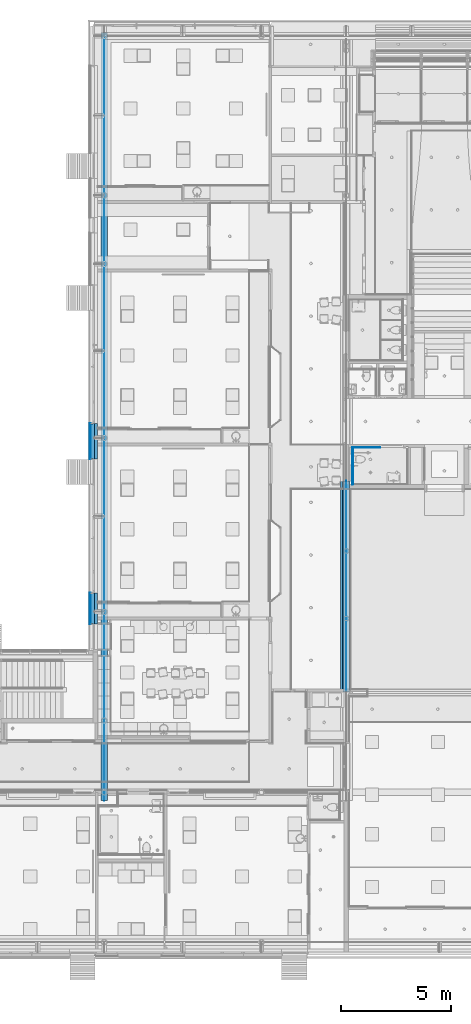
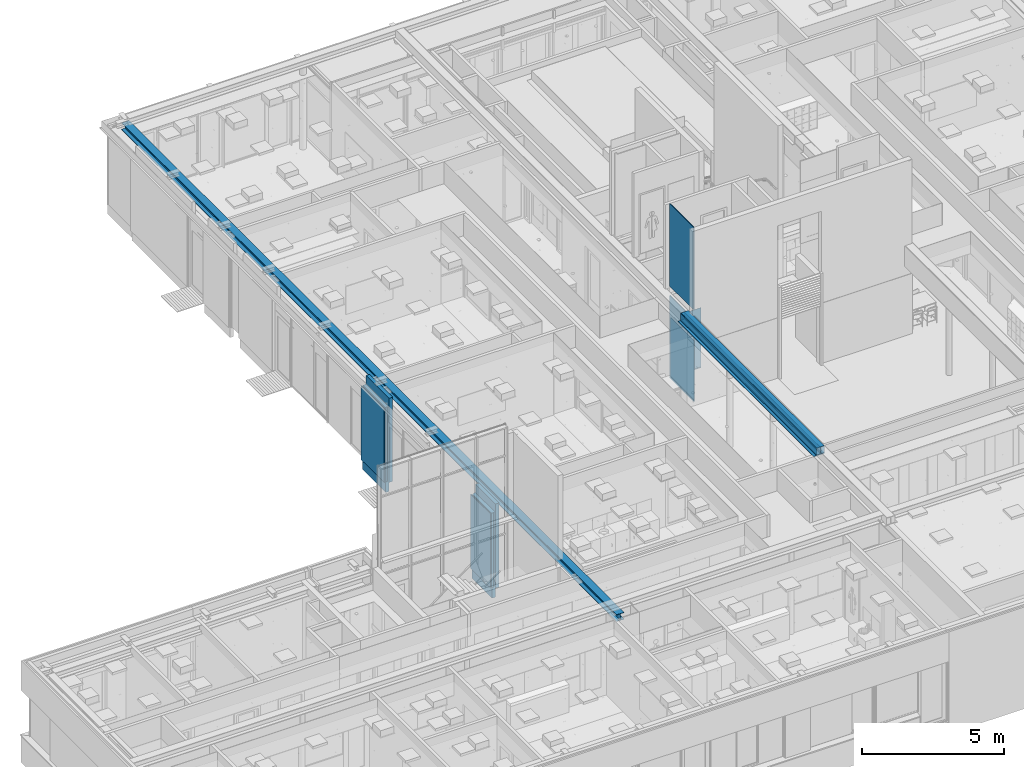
# One storey, part 114 of 347: 20 building element parts, 7 elements without a shape of their own.
"""IFC2X3 building model written with IfcOpenShell, lengths in millimetres."""

from ifc_helpers import new_model, entity, si_unit, converted_unit, derived_unit, money_unit, direction, frame, origin_with_axes, place, context, subcontext, project, spatial, faceted_brep, material, type_object, element, aggregate, save


model = new_model("IFC2X3")

# Units and contexts
model_context = context("Model", 3, precision=0.01, world=origin_with_axes(), true_north=direction((0.0, 1.0)))
plan_context = context("Plan", 3, precision=0.01, world=origin_with_axes(), true_north=direction((0.0, 1.0)))
body_context = subcontext(model_context, "Body", "Model", "MODEL_VIEW")
ifc_project = project(units=[si_unit("LENGTHUNIT", "METRE", prefix="MILLI"), si_unit("AREAUNIT", "SQUARE_METRE"), si_unit("VOLUMEUNIT", "CUBIC_METRE"), converted_unit("PLANEANGLEUNIT", "DEGREE", entity("IfcPlaneAngleMeasure", 0.0174532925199), si_unit("PLANEANGLEUNIT", "RADIAN"), dimensions=[0, 0, 0, 0, 0, 0, 0]), money_unit("EUR"), converted_unit("TIMEUNIT", "Year", entity("IfcTimeMeasure", 31556926.0), si_unit("TIMEUNIT", "SECOND"), dimensions=[0, 0, 1, 0, 0, 0, 0]), si_unit("MASSUNIT", "GRAM", prefix="KILO"), si_unit("THERMODYNAMICTEMPERATUREUNIT", "DEGREE_CELSIUS"), si_unit("LUMINOUSINTENSITYUNIT", "LUMEN"), si_unit("ENERGYUNIT", "JOULE", prefix="MEGA"), derived_unit("THERMALCONDUCTANCEUNIT", [(si_unit("POWERUNIT", "WATT"), 1), (si_unit("LENGTHUNIT", "METRE"), -1), (si_unit("THERMODYNAMICTEMPERATUREUNIT", "KELVIN"), -1)]), derived_unit("SPECIFICHEATCAPACITYUNIT", [(si_unit("ENERGYUNIT", "JOULE"), 1), (si_unit("MASSUNIT", "GRAM", prefix="KILO"), -1), (si_unit("THERMODYNAMICTEMPERATUREUNIT", "KELVIN"), -1)]), derived_unit("MASSDENSITYUNIT", [(si_unit("MASSUNIT", "GRAM", prefix="KILO"), 1), (si_unit("VOLUMEUNIT", "CUBIC_METRE"), -1)])], contexts=[model_context, plan_context])

# Site, building, storey
site_placement = place(None, origin_with_axes())
site = spatial("IfcSite", under=ifc_project, at=site_placement, Name="Site", CompositionType="ELEMENT")
building_placement = place(site_placement, origin_with_axes())
building = spatial("IfcBuilding", under=site, at=building_placement, Name="Naam gebouw", CompositionType="ELEMENT")
storey_placement = place(building_placement, origin_with_axes())
storey = spatial("IfcBuildingStorey", under=building, at=storey_placement, Name="begane grond", CompositionType="ELEMENT", Elevation=0.0)

# Proxy, building element parts
building_element_proxy_type = type_object("IfcBuildingElementProxyType", Name="wandtegels 150x300 2600+ 10 x 2600", PredefinedType="NOTDEFINED")
proxy_1_placement = place(storey_placement, frame((35925.0, 26170.0, 0.0), z_axis=(0.0, 0.0, 1.0), x_axis=(0.0, 1.0, 0.0)))
proxy_1 = element("IfcBuildingElementProxy", 1, at=proxy_1_placement, inside=storey, type_object=building_element_proxy_type, Name="42_51 wandtegels keramisch")
ifc_material_1 = material(Name="48 vloeivloer Bolidt")
building_element_part_1_placement = place(proxy_1_placement, origin_with_axes())
building_element_part_1 = element("IfcBuildingElementPart", 2, at=building_element_part_1_placement, material=ifc_material_1, Name="48 vloeivloer Bolidt", context=body_context, shape_type="Brep", body=[
    faceted_brep([(-8.00001490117, 10.0000089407, 50.0000059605), (-8.00001490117, 8.00001490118, 50.0000059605), (1669.99999702, 8.00001490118, 50.0000059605), (1669.99999702, 10.0000089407, 50.0000059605), (-8.00001490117, 8.00001490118, 0.0), (-8.00001490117, 10.0000089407, 0.0), (1669.99999702, 8.00001490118, 0.0), (1669.99999702, 10.0000089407, 0.0)], [[[0, 1, 2, 3]], [[4, 1, 0, 5]], [[1, 4, 6, 2]], [[3, 2, 6, 7]], [[5, 0, 3, 7]], [[4, 5, 7, 6]]]),
])
ifc_material_2 = material(Name="Tegels - Wand")
building_element_part_2_placement = place(proxy_1_placement, origin_with_axes())
building_element_part_2 = element("IfcBuildingElementPart", 3, at=building_element_part_2_placement, material=ifc_material_2, Name="Tegels - Wand", context=body_context, shape_type="Brep", body=[
    faceted_brep([(0.0, 10.0, 2600.0), (0.0, 0.0, 2600.0), (1669.99999702, 0.0, 2600.0), (1669.99999702, 10.0, 2600.0), (0.0, 0.0, 50.0), (0.0, 10.0, 50.0), (0.0, 8.00001490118, 50.0), (1669.99999702, 0.0, 50.0000059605), (1669.99999702, 10.0, 50.0000059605), (1669.99999702, 8.00001490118, 50.0000059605)], [[[0, 1, 2, 3]], [[4, 1, 0, 5, 6]], [[1, 4, 7, 2]], [[8, 3, 2, 7, 9]], [[5, 0, 3, 8]], [[6, 5, 8, 9]], [[4, 6, 9, 7]]]),
])
aggregate(proxy_1, [building_element_part_1, building_element_part_2])

# Wall, building element parts
wall_type_1 = type_object("IfcWallType", Name="ALG LSW sanitair 100", PredefinedType="NOTDEFINED")
wall_1_placement = place(storey_placement, frame((35905.0, 25940.0, 0.0), z_axis=(0.0, 0.0, 1.0), x_axis=(0.0, 1.0, 0.0)))
wall_1 = element("IfcWall", 4, at=wall_1_placement, inside=storey, type_object=wall_type_1, Name="21_GF 100 ECO RD V/75.2.A")
ifc_material_3 = material(Name="Hout - Multiplex wbp")
building_element_part_3_placement = place(wall_1_placement, origin_with_axes())
building_element_part_3 = element("IfcBuildingElementPart", 5, at=building_element_part_3_placement, material=ifc_material_3, Name="Hout - Multiplex wbp", context=body_context, shape_type="Brep", body=[
    faceted_brep([(1910.0, 30.0, 3560.0), (1910.0, 12.0, 3560.0), (1910.0, 12.0, 0.0), (1910.0, 30.0, 0.0), (210.0, 12.0, 3560.0), (210.0, 30.0, 3560.0), (210.0, 12.0, 0.0), (210.0, 30.0, 0.0)], [[[0, 1, 2, 3]], [[4, 1, 0, 5]], [[1, 4, 6, 2]], [[2, 6, 7, 3]], [[5, 0, 3, 7]], [[4, 5, 7, 6]]]),
    faceted_brep([(210.0, 12.0, 3960.0), (1910.0, 12.0, 3960.0), (1910.0, 12.0, 7520.0), (210.0, 12.0, 7520.0), (1910.0, 30.0, 3960.0), (210.0, 30.0, 3960.0), (1910.0, 30.0, 7520.0), (210.0, 30.0, 7520.0)], [[[0, 1, 2, 3]], [[4, 1, 0, 5]], [[1, 4, 6, 2]], [[3, 2, 6, 7]], [[5, 0, 3, 7]], [[4, 5, 7, 6]]]),
])
ifc_material_4 = material(Name="ALG - LICHTE SCHEIDINGSWAND AFW")
building_element_part_4_placement = place(wall_1_placement, origin_with_axes())
building_element_part_4 = element("IfcBuildingElementPart", 6, at=building_element_part_4_placement, material=ifc_material_4, Name="ALG - LICHTE SCHEIDINGSWAND AFW", context=body_context, shape_type="Brep", body=[
    faceted_brep([(1910.0, 12.0, 3560.0), (1910.0, 0.0, 3560.0), (1910.0, 0.0, 0.0), (1910.0, 12.0, 0.0), (210.0, 0.0, 3560.0), (210.0, 12.0, 3560.0), (210.0, 0.0, 0.0), (210.0, 12.0, 0.0)], [[[0, 1, 2, 3]], [[4, 1, 0, 5]], [[1, 4, 6, 2]], [[2, 6, 7, 3]], [[5, 0, 3, 7]], [[4, 5, 7, 6]]]),
    faceted_brep([(210.0, 0.0, 3960.0), (1910.0, 0.0, 3960.0), (1910.0, 0.0, 7520.0), (210.0, 0.0, 7520.0), (1910.0, 12.0, 3960.0), (210.0, 12.0, 3960.0), (1910.0, 12.0, 7520.0), (210.0, 12.0, 7520.0)], [[[0, 1, 2, 3]], [[4, 1, 0, 5]], [[1, 4, 6, 2]], [[3, 2, 6, 7]], [[5, 0, 3, 7]], [[4, 5, 7, 6]]]),
])
aggregate(wall_1, [building_element_part_3, building_element_part_4])

# Beam, building element parts
beam_type_1 = type_object("IfcBeamType", Name="28 SFBHE320B/S355 (pet) 425 x 340", PredefinedType="BEAM")
beam_1_placement = place(storey_placement, frame((35605.0, 26319.9999672, 3560.0), z_axis=(0.0, 0.0, 1.0), x_axis=(-1.0, 0.0, 0.0)))
beam_1 = element("IfcBeam", 7, at=beam_1_placement, inside=storey, type_object=beam_type_1, Name="28_Balk-x", ObjectType="BEAM")
ifc_material_5 = material(Name="Beton gewapend C vloer")
building_element_part_5_placement = place(beam_1_placement, origin_with_axes())
building_element_part_5 = element("IfcBuildingElementPart", 8, at=building_element_part_5_placement, material=ifc_material_5, Name="Beton gewapend C vloer", context=body_context, shape_type="Brep", body=[
    faceted_brep([(-5.74999830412, 9609.99933451, 299.500002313), (-150.0, 9609.99933451, 299.500002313), (-150.0, 0.0, 299.500002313), (-5.74999830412, 0.0, 299.500002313), (-5.74999830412, 9609.99933451, 20.5000013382), (-150.0, 9609.99933451, 20.5000013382), (-150.0, 0.0, 20.5000013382), (-5.74999830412, 0.0, 20.5000013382)], [[[0, 1, 2, 3]], [[0, 4, 5, 1]], [[1, 5, 6, 2]], [[3, 2, 6, 7]], [[4, 0, 3, 7]], [[5, 4, 7, 6]]]),
    faceted_brep([(150.000001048, 9609.99933451, 320.0), (150.000001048, 9609.99933451, 299.500002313), (150.000001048, 0.0, 299.500002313), (150.000001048, 0.0, 320.0), (170.000001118, 9609.99933451, 320.0), (170.000001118, 9609.99933451, -1.11758824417e-06), (150.000001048, 9609.99933451, -1.11758824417e-06), (150.000001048, 9609.99933451, 20.5000013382), (5.74999935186, 9609.99933451, 20.5000013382), (5.74999935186, 9609.99933451, 299.500002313), (5.74999935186, 0.0, 299.500002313), (5.74999935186, 0.0, 20.5000013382), (150.000001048, 0.0, 20.5000013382), (150.000001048, 0.0, -1.11758824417e-06), (170.000001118, 0.0, -1.11758824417e-06), (170.000001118, 0.0, 320.0)], [[[0, 1, 2, 3]], [[0, 4, 5, 6, 7, 8, 9, 1]], [[1, 9, 10, 2]], [[3, 2, 10, 11, 12, 13, 14, 15]], [[4, 0, 3, 15]], [[5, 4, 15, 14]], [[6, 5, 14, 13]], [[7, 6, 13, 12]], [[8, 7, 12, 11]], [[9, 8, 11, 10]]]),
])
ifc_material_6 = material(Name="Metaal - Staal C")
building_element_part_6_placement = place(beam_1_placement, origin_with_axes())
building_element_part_6 = element("IfcBuildingElementPart", 9, at=building_element_part_6_placement, material=ifc_material_6, Name="Metaal - Staal C", context=body_context, shape_type="Brep", body=[
    faceted_brep([(-150.0, 9609.99933451, 20.4999990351), (-150.0, 9609.99933451, -1.11758824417e-06), (-150.0, 0.0, -1.11758824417e-06), (-150.0, 0.0, 20.4999990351), (150.000002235, 9609.99933451, 20.4999990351), (150.000002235, 9609.99933451, -1.11758824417e-06), (150.000002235, 0.0, -1.11758824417e-06), (150.000002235, 0.0, 20.4999990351)], [[[0, 1, 2, 3]], [[0, 4, 5, 1]], [[1, 5, 6, 2]], [[3, 2, 6, 7]], [[4, 0, 3, 7]], [[5, 4, 7, 6]]]),
])
building_element_part_7_placement = place(beam_1_placement, origin_with_axes())
building_element_part_7 = element("IfcBuildingElementPart", 10, at=building_element_part_7_placement, material=ifc_material_6, Name="Metaal - Staal C", context=body_context, shape_type="Brep", body=[
    faceted_brep([(-5.75, 9609.99933451, 299.5), (-5.75, 9609.99933451, 20.5), (-5.75, 0.0, 20.5), (-5.75, 0.0, 299.5), (5.75, 9609.99933451, 299.5), (5.75, 9609.99933451, 20.5), (5.75, 0.0, 20.5), (5.75, 0.0, 299.5)], [[[0, 1, 2, 3]], [[0, 4, 5, 1]], [[1, 5, 6, 2]], [[3, 2, 6, 7]], [[4, 0, 3, 7]], [[5, 4, 7, 6]]]),
])
building_element_part_8_placement = place(beam_1_placement, origin_with_axes())
building_element_part_8 = element("IfcBuildingElementPart", 11, at=building_element_part_8_placement, material=ifc_material_6, Name="Metaal - Staal C", context=body_context, shape_type="Brep", body=[
    faceted_brep([(-150.0, 9609.99933451, 320.0), (-150.0, 9609.99933451, 299.5), (-150.0, 0.0, 299.5), (-150.0, 0.0, 320.0), (150.0, 9609.99933451, 320.0), (150.0, 9609.99933451, 299.5), (150.0, 0.0, 299.5), (150.0, 0.0, 320.0)], [[[0, 1, 2, 3]], [[0, 4, 5, 1]], [[1, 5, 6, 2]], [[3, 2, 6, 7]], [[4, 0, 3, 7]], [[5, 4, 7, 6]]]),
])
building_element_part_9_placement = place(beam_1_placement, origin_with_axes())
building_element_part_9 = element("IfcBuildingElementPart", 12, at=building_element_part_9_placement, material=ifc_material_6, Name="Metaal - Staal C", context=body_context, shape_type="Brep", body=[
    faceted_brep([(170.000001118, 9609.99933451, -1.11758824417e-06), (-150.0, 9609.99933451, 0.0), (-150.0, 0.0, 0.0), (170.000001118, 0.0, -1.11758824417e-06), (275.0, 9609.99933451, 0.0), (275.0, 9609.99933451, -20.0), (-150.0, 9609.99933451, -20.0), (-150.0, 0.0, -20.0), (275.0, 0.0, -20.0), (275.0, 0.0, 0.0)], [[[0, 1, 2, 3]], [[0, 4, 5, 6, 1]], [[1, 6, 7, 2]], [[3, 2, 7, 8, 9]], [[4, 0, 3, 9]], [[5, 4, 9, 8]], [[6, 5, 8, 7]]]),
])
aggregate(beam_1, [building_element_part_5, building_element_part_6, building_element_part_7, building_element_part_8, building_element_part_9])

# Proxy, building element parts
proxy_2_placement = place(storey_placement, frame((35925.0, 27830.0, 0.0), z_axis=(0.0, 0.0, 1.0), x_axis=(1.0, 0.0, 0.0)))
proxy_2 = element("IfcBuildingElementProxy", 13, at=proxy_2_placement, inside=storey, type_object=building_element_proxy_type, Name="42_52 wandtegels keramisch")
building_element_part_10_placement = place(proxy_2_placement, origin_with_axes())
building_element_part_10 = element("IfcBuildingElementPart", 14, at=building_element_part_10_placement, material=ifc_material_1, Name="48 vloeivloer Bolidt", context=body_context, shape_type="Brep", body=[
    faceted_brep([(-8.00001490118, 10.0000089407, 0.0), (-8.00001490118, 10.0000089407, 50.0000059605), (1216.0, 10.0000089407, 50.0000059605), (1216.0, 10.0000089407, 0.0), (-8.00001490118, 8.00001490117, 50.0000059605), (-8.00001490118, 8.00001490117, 0.0), (1216.0, 8.00001490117, 50.0000059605), (1216.0, 8.00001490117, 0.0)], [[[0, 1, 2, 3]], [[4, 1, 0, 5]], [[1, 4, 6, 2]], [[6, 7, 3, 2]], [[5, 0, 3, 7]], [[4, 5, 7, 6]]]),
])
building_element_part_11_placement = place(proxy_2_placement, origin_with_axes())
building_element_part_11 = element("IfcBuildingElementPart", 15, at=building_element_part_11_placement, material=ifc_material_2, Name="Tegels - Wand", context=body_context, shape_type="Brep", body=[
    faceted_brep([(0.0, 10.0, 50.0), (0.0, 10.0, 2600.0), (1216.0, 10.0, 2600.0), (1216.0, 10.0, 50.0), (0.0, 0.0, 2600.0), (0.0, 8.00001490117, 50.0), (0.0, 0.0, 50.0), (1216.0, 0.0, 2600.0), (1216.0, 0.0, 50.0), (1216.0, 8.00001490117, 50.0000059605)], [[[0, 1, 2, 3]], [[4, 1, 0, 5, 6]], [[1, 4, 7, 2]], [[3, 2, 7, 8, 9]], [[5, 0, 3, 9]], [[6, 5, 9, 8]], [[4, 6, 8, 7]]]),
])
aggregate(proxy_2, [building_element_part_10, building_element_part_11])

# Beam, building element parts
beam_type_2 = type_object("IfcBeamType", Name="28 HEB300 300 x 300", PredefinedType="BEAM")
beam_2_placement = place(storey_placement, frame((24575.0, 46737.0, 3560.0), z_axis=(0.0, 0.0, 1.0), x_axis=(-1.0, 0.0, 0.0)))
beam_2 = element("IfcBeam", 16, at=beam_2_placement, inside=storey, type_object=beam_type_2, Name="28_Balk-x", ObjectType="BEAM")
building_element_part_12_placement = place(beam_2_placement, origin_with_axes())
building_element_part_12 = element("IfcBuildingElementPart", 17, at=building_element_part_12_placement, material=ifc_material_6, Name="Metaal - Staal C", context=body_context, shape_type="Brep", body=[
    faceted_brep([(-150.0, 34987.0, -19.0), (-5.5, 34987.0, -19.0), (-5.5, 0.0, -19.0), (-150.0, 0.0, -19.0), (-150.0, 34987.0, 0.0), (150.0, 34987.0, 0.0), (150.0, 34987.0, -19.0), (5.5, 34987.0, -19.0), (5.5, 0.0, -19.0), (150.0, 0.0, -19.0), (150.0, 0.0, 0.0), (-150.0, 0.0, 0.0)], [[[0, 1, 2, 3]], [[0, 4, 5, 6, 7, 1]], [[1, 7, 8, 2]], [[3, 2, 8, 9, 10, 11]], [[4, 0, 3, 11]], [[5, 4, 11, 10]], [[6, 5, 10, 9]], [[7, 6, 9, 8]]]),
])
building_element_part_13_placement = place(beam_2_placement, origin_with_axes())
building_element_part_13 = element("IfcBuildingElementPart", 18, at=building_element_part_13_placement, material=ifc_material_6, Name="Metaal - Staal C", context=body_context, shape_type="Brep", body=[
    faceted_brep([(-150.0, 34987.0, -281.0), (-150.0, 34987.0, -300.0), (-150.0, 0.0, -300.0), (-150.0, 0.0, -281.0), (-5.5, 34987.0, -281.0), (5.5, 34987.0, -281.0), (150.0, 34987.0, -281.0), (150.0, 34987.0, -300.0), (150.0, 0.0, -300.0), (150.0, 0.0, -281.0), (5.5, 0.0, -281.0), (-5.5, 0.0, -281.0)], [[[0, 1, 2, 3]], [[0, 4, 5, 6, 7, 1]], [[1, 7, 8, 2]], [[3, 2, 8, 9, 10, 11]], [[4, 0, 3, 11]], [[5, 4, 11, 10]], [[6, 5, 10, 9]], [[7, 6, 9, 8]]]),
])
building_element_part_14_placement = place(beam_2_placement, origin_with_axes())
building_element_part_14 = element("IfcBuildingElementPart", 19, at=building_element_part_14_placement, material=ifc_material_6, Name="Metaal - Staal C", context=body_context, shape_type="Brep", body=[
    faceted_brep([(-5.5, 34987.0, -281.0), (5.5, 34987.0, -281.0), (5.5, 0.0, -281.0), (-5.5, 0.0, -281.0), (-5.5, 34987.0, -19.0), (5.5, 34987.0, -19.0), (5.5, 0.0, -19.0), (-5.5, 0.0, -19.0)], [[[0, 1, 2, 3]], [[0, 4, 5, 1]], [[1, 5, 6, 2]], [[3, 2, 6, 7]], [[4, 0, 3, 7]], [[5, 4, 7, 6]]]),
])
aggregate(beam_2, [building_element_part_12, building_element_part_13, building_element_part_14])

# Wall, building element parts
wall_type_2 = type_object("IfcWallType", Name="22 beg hout (3200+) 350 x 4010", PredefinedType="NOTDEFINED")
wall_2_placement = place(storey_placement, frame((24275.0, 28937.5, 0.0), z_axis=(0.0, 0.0, 1.0), x_axis=(0.0, -1.0, 0.0)))
wall_2 = element("IfcWall", 20, at=wall_2_placement, inside=storey, type_object=wall_type_2, Name="21_21 betonwand")
ifc_material_7 = material(Name="Steen - Kalkzandsteen C")
building_element_part_15_placement = place(wall_2_placement, origin_with_axes())
building_element_part_15 = element("IfcBuildingElementPart", 21, at=building_element_part_15_placement, material=ifc_material_7, Name="Steen - Kalkzandsteen C", context=body_context, shape_type="Brep", body=[
    faceted_brep([(1625.0, 8.19568057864e-06, -70.0), (0.0, 8.1956450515e-06, -70.0), (0.0, 8.1956450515e-06, 3560.0), (1625.0, 8.19568057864e-06, 3560.0), (0.0, -150.0, -70.0), (1625.0, -150.0, -70.0), (0.0, -149.999977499, 3200.00001043), (0.0, -149.999977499, 3560.0), (1625.0, -149.999977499, 3560.0), (1625.0, -149.999977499, 3200.00001043)], [[[0, 1, 2, 3]], [[4, 1, 0, 5]], [[1, 4, 6, 7, 2]], [[2, 7, 8, 3]], [[5, 0, 3, 8, 9]], [[4, 5, 9, 6]], [[7, 6, 9, 8]]]),
])
ifc_material_8 = material(Name="Isolatie - Kunststof hard")
building_element_part_16_placement = place(wall_2_placement, origin_with_axes())
building_element_part_16 = element("IfcBuildingElementPart", 22, at=building_element_part_16_placement, material=ifc_material_8, Name="Isolatie - Kunststof hard", context=body_context, shape_type="Brep", body=[
    faceted_brep([(0.0, -290.000000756, 0.0), (0.0, -211.999880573, 0.0), (0.0, -211.999880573, 3200.0), (0.0, -150.0, 3200.0), (0.0, -149.999977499, -79.999987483), (0.0, -150.0, -450.0), (0.0, -290.0, -450.0), (25.0, -290.000000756, 0.0), (25.0, -211.999880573, 0.0), (25.0, -211.999880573, 3200.0), (25.0, -290.0, 3200.0), (1600.0, -290.0, 3200.0), (1600.0, -212.0, 3200.0), (1625.0, -212.0, 3200.0), (1625.0, -150.0, 3200.0), (1625.0, -149.999977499, -79.999987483), (1625.0, -150.0, -450.0), (1625.0, -290.0, -450.0), (1625.0, -290.000000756, 0.0), (1600.0, -290.000000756, 0.0), (1600.0, -212.0, 0.0), (1625.0, -212.0, 0.0)], [[[0, 1, 2, 3, 4, 5, 6]], [[1, 0, 7, 8]], [[9, 2, 1, 8]], [[9, 10, 11, 12, 13, 14, 3, 2]], [[3, 14, 15, 4]], [[4, 15, 16, 5]], [[5, 16, 17, 6]], [[7, 0, 6, 17, 18, 19]], [[10, 9, 8, 7]], [[10, 7, 19, 11]], [[12, 11, 19, 20]], [[13, 12, 20, 21]], [[21, 18, 17, 16, 15, 14, 13]], [[18, 21, 20, 19]]]),
])
ifc_material_9 = material(Name="24 Hout gevelbekleding Lariks")
building_element_part_17_placement = place(wall_2_placement, origin_with_axes())
building_element_part_17 = element("IfcBuildingElementPart", 23, at=building_element_part_17_placement, material=ifc_material_9, Name="24 Hout gevelbekleding Lariks", context=body_context, shape_type="Brep", body=[
    faceted_brep([(0.0, -349.999974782, 3200.0), (1625.0, -349.999974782, 3200.0), (1625.0, -325.0, 3200.0), (0.0, -325.0, 3200.0), (0.0, -349.999974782, -1.31956885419e-05), (1625.0, -349.999974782, -1.31956885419e-05), (1625.0, -325.0, -1.31956885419e-05), (0.0, -325.0, -1.31956885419e-05)], [[[0, 1, 2, 3]], [[4, 5, 1, 0]], [[2, 1, 5, 6]], [[3, 2, 6, 7]], [[4, 0, 3, 7]], [[7, 6, 5, 4]]]),
])
aggregate(wall_2, [building_element_part_15, building_element_part_16, building_element_part_17])

wall_3_placement = place(storey_placement, frame((24275.0, 21212.5, 0.0), z_axis=(0.0, 0.0, 1.0), x_axis=(0.0, -1.0, 0.0)))
wall_3 = element("IfcWall", 24, at=wall_3_placement, inside=storey, type_object=wall_type_2, Name="21_21 betonwand")
building_element_part_18_placement = place(wall_3_placement, origin_with_axes())
building_element_part_18 = element("IfcBuildingElementPart", 25, at=building_element_part_18_placement, material=ifc_material_7, Name="Steen - Kalkzandsteen C", context=body_context, shape_type="Brep", body=[
    faceted_brep([(1417.5, 8.19561662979e-06, -70.0), (0.0, 8.1956450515e-06, -70.0), (0.0, 8.1956450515e-06, 3560.0), (1417.5, 8.19561662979e-06, 3560.0), (0.0, -150.0, -70.0), (1417.5, -150.0, -70.0), (0.0, -149.999977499, 3200.00001043), (0.0, -149.999977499, 3560.0), (1417.5, -149.999977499, 3560.0), (1417.5, -149.999977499, 3200.00001043)], [[[0, 1, 2, 3]], [[4, 1, 0, 5]], [[1, 4, 6, 7, 2]], [[3, 2, 7, 8]], [[5, 0, 3, 8, 9]], [[4, 5, 9, 6]], [[8, 7, 6, 9]]]),
])
building_element_part_19_placement = place(wall_3_placement, origin_with_axes())
building_element_part_19 = element("IfcBuildingElementPart", 26, at=building_element_part_19_placement, material=ifc_material_8, Name="Isolatie - Kunststof hard", context=body_context, shape_type="Brep", body=[
    faceted_brep([(1392.5, -211.999863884, 3200.0), (1417.5, -211.999863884, 3200.0), (1417.5, -150.0, 3200.0), (0.0, -150.0, 3200.0), (0.0, -211.999880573, 3200.0), (25.0, -211.999880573, 3200.0), (25.0, -290.0, 3200.0), (1392.5, -290.0, 3200.0), (1392.5, -211.999863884, 0.0), (1417.5, -211.999863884, 0.0), (1417.5, -290.000000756, 0.0), (1417.5, -290.0, -450.0), (1417.5, -150.0, -450.0), (1417.5, -149.999977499, -79.999987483), (0.0, -149.999977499, -79.999987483), (0.0, -290.000000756, 0.0), (0.0, -211.999880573, 0.0), (0.0, -150.0, -450.0), (0.0, -290.0, -450.0), (25.0, -211.999880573, 0.0), (25.0, -290.000000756, 0.0), (1392.5, -290.000000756, 0.0)], [[[0, 1, 2, 3, 4, 5, 6, 7]], [[1, 0, 8, 9]], [[9, 10, 11, 12, 13, 2, 1]], [[14, 3, 2, 13]], [[15, 16, 4, 3, 14, 17, 18]], [[5, 4, 16, 19]], [[6, 5, 19, 20]], [[21, 7, 6, 20]], [[0, 7, 21, 8]], [[10, 9, 8, 21]], [[10, 21, 20, 15, 18, 11]], [[18, 17, 12, 11]], [[17, 14, 13, 12]], [[16, 15, 20, 19]]]),
])
building_element_part_20_placement = place(wall_3_placement, origin_with_axes())
building_element_part_20 = element("IfcBuildingElementPart", 27, at=building_element_part_20_placement, material=ifc_material_9, Name="24 Hout gevelbekleding Lariks", context=body_context, shape_type="Brep", body=[
    faceted_brep([(0.0, -325.0, 3200.0), (0.0, -349.999974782, 3200.0), (1417.5, -349.999974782, 3200.0), (1417.5, -325.0, 3200.0), (0.0, -325.0, -1.31956885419e-05), (0.0, -349.999974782, -1.31956885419e-05), (1417.5, -349.999974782, -1.31956885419e-05), (1417.5, -325.0, -1.31956885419e-05)], [[[0, 1, 2, 3]], [[4, 5, 1, 0]], [[1, 5, 6, 2]], [[7, 3, 2, 6]], [[4, 0, 3, 7]], [[5, 4, 7, 6]]]),
])
aggregate(wall_3, [building_element_part_18, building_element_part_19, building_element_part_20])

save(model, "model.ifc")
